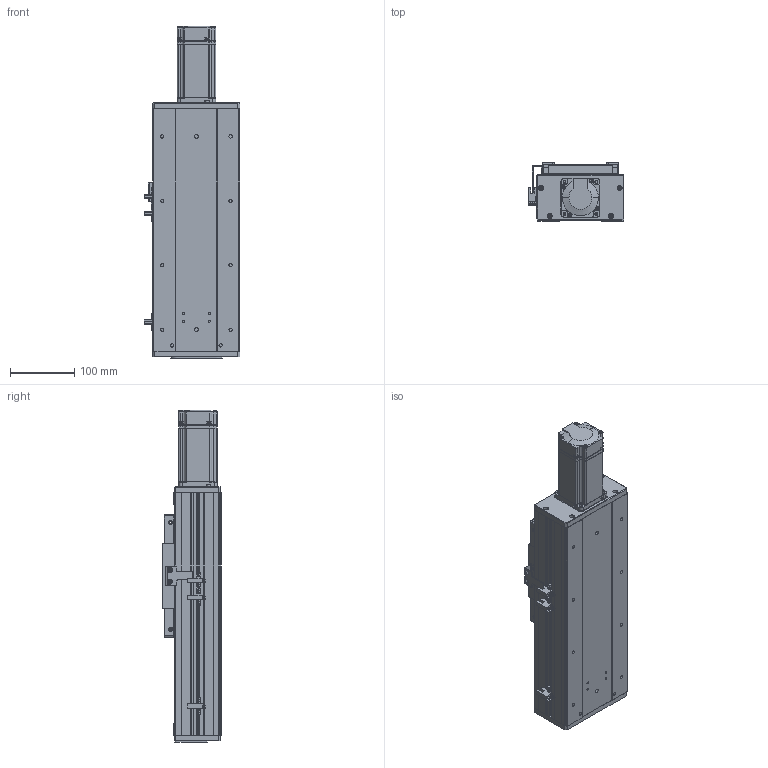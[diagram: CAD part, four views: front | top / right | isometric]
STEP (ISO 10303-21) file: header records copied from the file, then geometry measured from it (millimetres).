
FILE_DESCRIPTION (( 'STEP AP203' ), '1' );
FILE_NAME ('RY140F-L2020-300-MK.SLDASM_100.step', '2021-03-02T06:23:43', ( '盈信电脑' ), ( '东莞市道滘镇水果街19号' ), 'SwSTEP 2.0', 'SolidWorks 2012', '' );
FILE_SCHEMA (( 'CONFIG_CONTROL_DESIGN' ));
Length unit declared in the file: millimetre
Products named in the file (18): 滅袉蝶18-10; RY140F-L2020-300-MK.SLDASM_100; RY140F-詩湍揤え; 侐源滅袉蝶; 覜茼ん672; RY140F-672覜茼んえ; 侂狟400W侜督萇儂; 15; RY140F-直连型材铝滑块(16丝杆); RY140F-后盖板(铝件）; RY140F-直连前盖板(铝件）; RY100F-詩湍揤踡謫; RY140F-滅鳥奻裔; RY140F-直连型材铝滑块连接座; RY140F-詩湍幗謫粣; RY140F-300-MK眻蟀詩湍_100; RY140F-300-MK眻蟀倰第菁釱_100; RY140F-300-MK眻蟀倰第奻裔啣_100
Assembly tree (22 placements, depth 3):
  RY140F-L2020-300-MK.SLDASM_100
    RY140F-300-MK眻蟀倰第菁釱_100
    RY140F-300-MK眻蟀倰第奻裔啣_100  x2
    RY140F-300-MK眻蟀詩湍_100
    RY140F-直连型材铝滑块连接座
    RY140F-滅鳥奻裔
    RY140F-詩湍幗謫粣
    RY100F-詩湍揤踡謫
    RY140F-直连型材铝滑块(16丝杆)
    RY140F-直连前盖板(铝件）
    RY140F-后盖板(铝件）
    侂狟400W侜督萇儂
      15
    覜茼ん672  x3
    RY140F-672覜茼んえ
    RY140F-詩湍揤え  x2
    滅袉蝶18-10
    侐源滅袉蝶  x2
Bounding box: 148.7 x 91 x 515.5 mm (x, y, z)
Volume: 2095512.4 mm3; surface area: 683153.4 mm2
Topology: 21 solids, 21 shells, 1856 faces, 5121 edges, 3308 vertices
Faces by surface type: plane 854, cylinder 830, cone 150, bspline 18, torus 4
Entity records: 53862 total; most frequent: CARTESIAN_POINT 10913, DIRECTION 8704, ORIENTED_EDGE 8446, EDGE_CURVE 4223, AXIS2_PLACEMENT_3D 3087, VERTEX_POINT 2776, LINE 2530, VECTOR 2530
